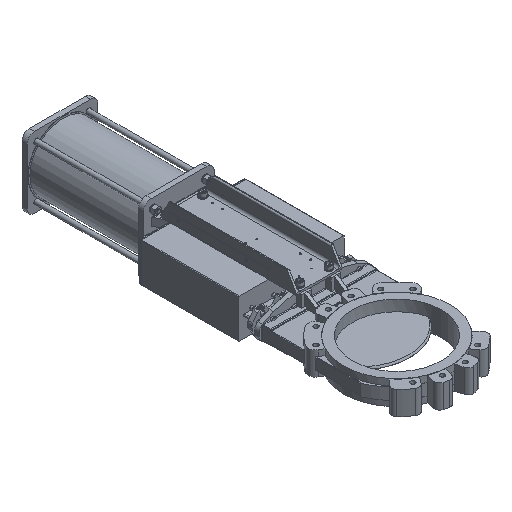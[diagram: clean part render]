
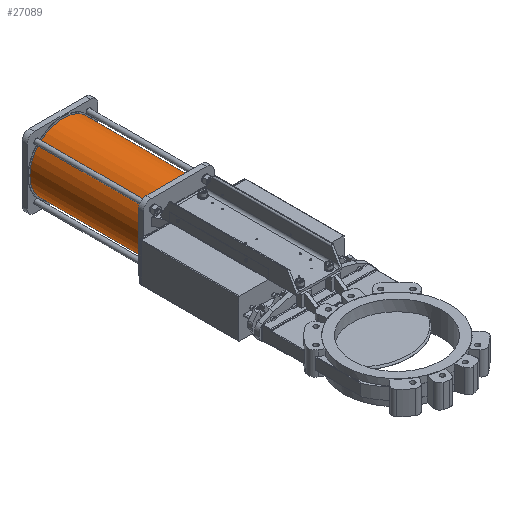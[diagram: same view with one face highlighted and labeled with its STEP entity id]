
A CAD part, isometric view. The second image highlights one B-rep face of the part: STEP entity #27089.
In plain terms, the highlighted cylindrical face has radius 131 mm (diameter 262 mm), a full revolution.
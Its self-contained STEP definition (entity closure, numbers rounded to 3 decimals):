
#821=CYLINDRICAL_SURFACE('',#28950,131.);
#1721=CIRCLE('',#28884,131.);
#1722=CIRCLE('',#28885,131.);
#1755=CIRCLE('',#28951,131.);
#1756=CIRCLE('',#28952,131.);
#4283=FACE_OUTER_BOUND('',#5970,.T.);
#5970=EDGE_LOOP('',(#19740,#19741,#19742,#19743,#19744,#19745));
#7870=LINE('',#42247,#9819);
#9819=VECTOR('',#32876,131.);
#11988=VERTEX_POINT('',#42102);
#11989=VERTEX_POINT('',#42103);
#12032=VERTEX_POINT('',#42246);
#12033=VERTEX_POINT('',#42248);
#14864=EDGE_CURVE('',#11988,#11989,#1721,.T.);
#14865=EDGE_CURVE('',#11989,#11988,#1722,.T.);
#14935=EDGE_CURVE('',#11989,#12032,#7870,.T.);
#14936=EDGE_CURVE('',#12032,#12033,#1755,.T.);
#14937=EDGE_CURVE('',#12033,#12032,#1756,.T.);
#19740=ORIENTED_EDGE('',*,*,#14864,.F.);
#19741=ORIENTED_EDGE('',*,*,#14865,.F.);
#19742=ORIENTED_EDGE('',*,*,#14935,.T.);
#19743=ORIENTED_EDGE('',*,*,#14936,.T.);
#19744=ORIENTED_EDGE('',*,*,#14937,.T.);
#19745=ORIENTED_EDGE('',*,*,#14935,.F.);
#27089=ADVANCED_FACE('',(#4283),#821,.T.);
#28884=AXIS2_PLACEMENT_3D('',#42104,#32715,#32716);
#28885=AXIS2_PLACEMENT_3D('',#42105,#32717,#32718);
#28950=AXIS2_PLACEMENT_3D('',#42245,#32874,#32875);
#28951=AXIS2_PLACEMENT_3D('',#42249,#32877,#32878);
#28952=AXIS2_PLACEMENT_3D('',#42250,#32879,#32880);
#32715=DIRECTION('center_axis',(0.,1.,0.));
#32716=DIRECTION('ref_axis',(0.079,0.,-0.997));
#32717=DIRECTION('center_axis',(0.,1.,0.));
#32718=DIRECTION('ref_axis',(0.079,0.,-0.997));
#32874=DIRECTION('center_axis',(0.,1.,0.));
#32875=DIRECTION('ref_axis',(0.,0.,1.));
#32876=DIRECTION('',(0.,-1.,0.));
#32877=DIRECTION('center_axis',(0.,1.,0.));
#32878=DIRECTION('ref_axis',(0.079,0.,-0.997));
#32879=DIRECTION('center_axis',(0.,1.,0.));
#32880=DIRECTION('ref_axis',(0.079,0.,-0.997));
#42102=CARTESIAN_POINT('',(0.,1318.,131.));
#42103=CARTESIAN_POINT('',(0.,1318.,-131.));
#42104=CARTESIAN_POINT('Origin',(0.,1318.,0.));
#42105=CARTESIAN_POINT('Origin',(0.,1318.,0.));
#42245=CARTESIAN_POINT('Origin',(0.,882.5,0.));
#42246=CARTESIAN_POINT('',(0.,882.5,-131.));
#42247=CARTESIAN_POINT('',(0.,882.5,-131.));
#42248=CARTESIAN_POINT('',(131.,882.5,0.));
#42249=CARTESIAN_POINT('Origin',(0.,882.5,0.));
#42250=CARTESIAN_POINT('Origin',(0.,882.5,0.));
